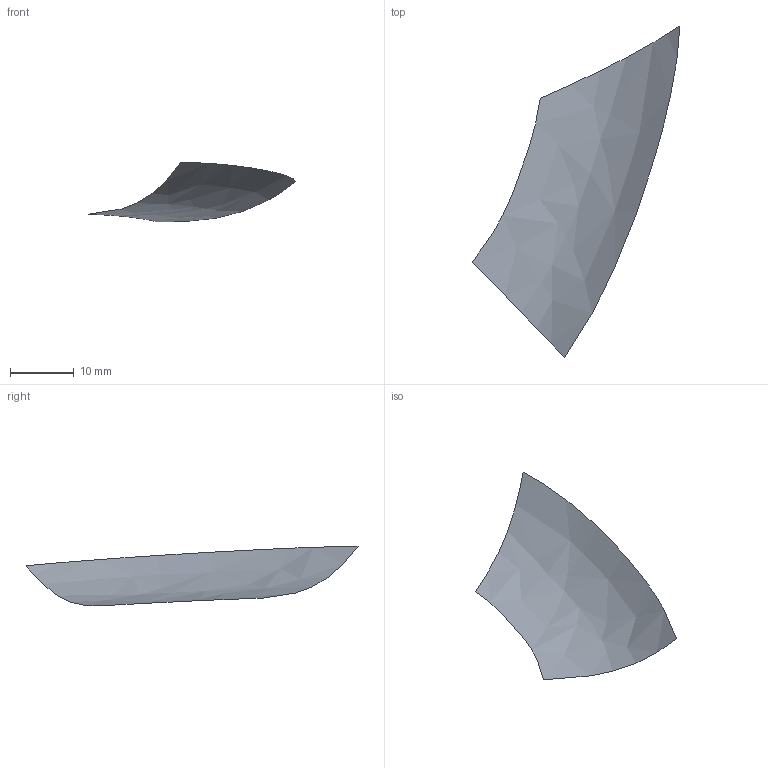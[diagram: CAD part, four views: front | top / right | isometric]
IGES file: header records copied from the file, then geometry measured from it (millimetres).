
Start section: START RECORD GO HERE
Global section: file name: t5.igs; native system: IBM CATIA IGES - CATIA SOLUTIONS V4RELEASE 1.9 REFRESH 01; preprocessor: CATIA SOLUTIONS V4RELEASE 1.9 REFRESH 01; author: cky; date: 990510.133752; units: millimetre
Bounding box: 32.52 x 51.99 x 9.39 mm (x, y, z)
Surface area: 920.8 mm2 (no closed solid volume)
Topology: 0 solids, 0 shells, 1 faces, 14 edges, 14 vertices
Faces by surface type: bspline 1
